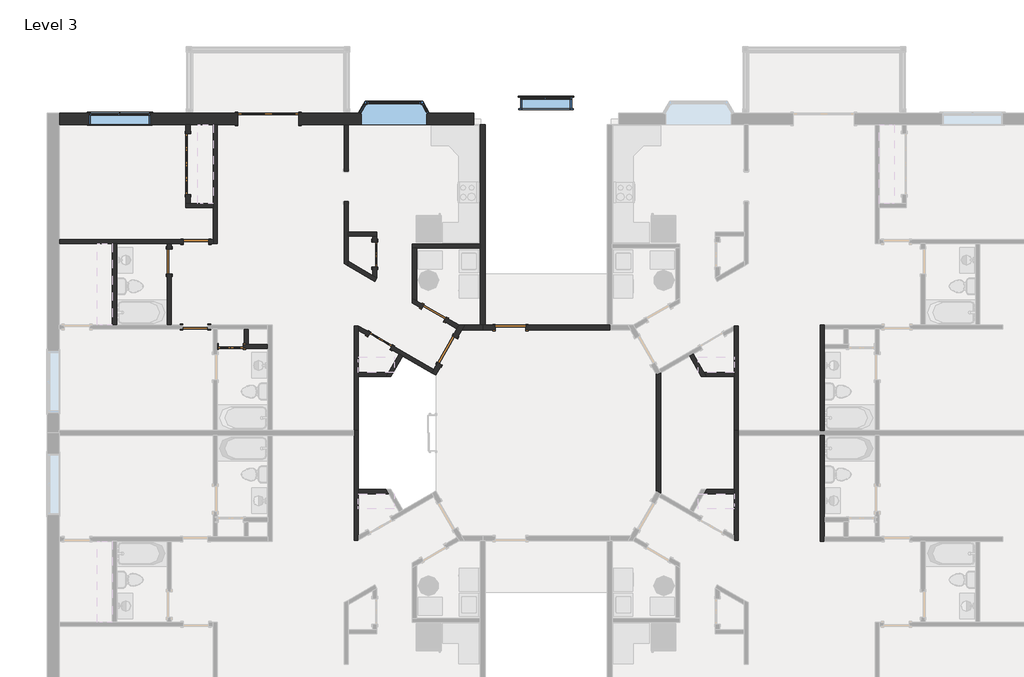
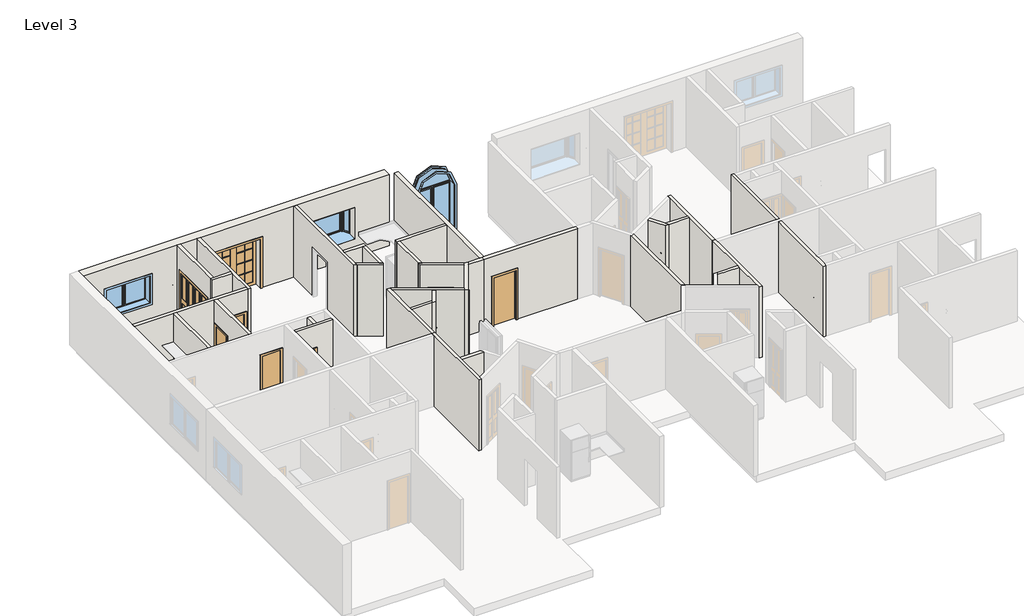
# One storey, part 3 of 5: 34 walls, 11 doors, 3 windows.
"""IFC4 building model written with IfcOpenShell, lengths in millimetres."""

from ifc_helpers import new_model, si_unit, frame, origin, place, context, project, spatial, polyline, outline, extrude, faceted_brep, transform, mapped, element, save
from components import door_28b41c19, door_77c9d7c5, door_beec499a, door_8fade463, door_91cbdfe0, door_39079f6b, door_e1308624, door_51669b0d, window_e38a858d, window_7fb523db, window_801eb773

model = new_model("IFC4")

# Units and contexts
model_context = context("Model", 3, world=origin())
ifc_project = project(units=[si_unit("LENGTHUNIT", "METRE", prefix="MILLI")], contexts=[model_context])

# Site, building, storey
site = spatial("IfcSite", under=ifc_project)
building = spatial("IfcBuilding", under=site)
storey = spatial("IfcBuildingStorey", under=building, Name="Level 3", Elevation=6096.0)

# Doors
placement = place(None, origin())
door_shape = door_28b41c19(model_context)
element("IfcDoor", 1, ObjectType="Bifold-2 Panel : 30\" x 80\"", at=placement, inside=storey, context=model_context, shape_type="MappedRepresentation", body=[
    mapped(door_shape, transform((-5777.2375398, 7161.5213201, 6096.0), x_axis=(0.0, 1.0, 0.0), y_axis=(-1.0, 0.0, 0.0), z_axis=(0.0, 0.0, 1.0))),
])
element("IfcDoor", 2, ObjectType="Bifold-2 Panel : 30\" x 80\"", at=placement, inside=storey, context=model_context, shape_type="MappedRepresentation", body=[
    mapped(door_shape, transform((-5620.6593942, 4569.8411376, 6096.0), x_axis=(-0.8660254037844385, 0.5000000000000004, 0.0), y_axis=(-0.5000000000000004, -0.8660254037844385, 0.0), z_axis=(0.0, 0.0, 1.0))),
])
door_2_shape = door_77c9d7c5(model_context)
element("IfcDoor", 3, ObjectType="Bifold-2 Panel : 30\" x 80\"", at=placement, inside=storey, context=model_context, shape_type="MappedRepresentation", body=[
    mapped(door_2_shape, transform((-10106.3500398, 4399.2713201, 6096.0), x_axis=(-1.0, 0.0, 0.0), y_axis=(0.0, -1.0, 0.0), z_axis=(0.0, 0.0, 1.0))),
])
door_3_shape = door_beec499a(model_context)
element("IfcDoor", 4, ObjectType="Bifold-4 Panel : 72\" x 80\"", at=placement, inside=storey, context=model_context, shape_type="MappedRepresentation", body=[
    mapped(door_3_shape, transform((-11387.4625398, 9879.3213201, 6096.0), x_axis=(0.0, -1.0, 0.0), y_axis=(1.0, 0.0, 0.0), z_axis=(0.0, 0.0, 1.0))),
])
door_4_shape = door_8fade463(model_context)
element("IfcDoor", 5, ObjectType="Double-Glass 2 : 72\" x 84\"", at=placement, inside=storey, context=model_context, shape_type="MappedRepresentation", body=[
    mapped(door_4_shape, transform((-8972.8750398, 11238.2213201, 6096.0), x_axis=(-1.0, 0.0, 0.0), y_axis=(0.0, -1.0, 0.0), z_axis=(0.0, 0.0, 1.0))),
])
door_5_shape = door_91cbdfe0(model_context)
element("IfcDoor", 6, ObjectType="Single-Flush : 30\" x 80\"", at=placement, inside=storey, context=model_context, shape_type="MappedRepresentation", body=[
    mapped(door_5_shape, transform((-11169.9750398, 4983.4713201, 6096.0), x_axis=(1.0, 0.0, 0.0), y_axis=(0.0, 1.0, 0.0), z_axis=(0.0, 0.0, 1.0))),
])
door_6_shape = door_39079f6b(model_context)
element("IfcDoor", 7, ObjectType="Single-Flush : 30\" x 80\"", at=placement, inside=storey, context=model_context, shape_type="MappedRepresentation", body=[
    mapped(door_6_shape, transform((-11154.1000398, 7545.6963201, 6096.0), x_axis=(1.0, 0.0, 0.0), y_axis=(0.0, 1.0, 0.0), z_axis=(0.0, 0.0, 1.0))),
])
element("IfcDoor", 8, ObjectType="Single-Flush : 30\" x 80\"", at=placement, inside=storey, context=model_context, shape_type="MappedRepresentation", body=[
    mapped(door_6_shape, transform((-4004.5369788, 5400.5472723, 6096.0), x_axis=(0.8660254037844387, -0.4999999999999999, 0.0), y_axis=(0.4999999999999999, 0.8660254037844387, 0.0), z_axis=(0.0, 0.0, 1.0))),
])
element("IfcDoor", 9, ObjectType="Single-Flush : 30\" x 80\"", at=placement, inside=storey, context=model_context, shape_type="MappedRepresentation", body=[
    mapped(door_6_shape, transform((-11949.4375398, 6950.3838201, 6096.0), x_axis=(0.0, 1.0, 0.0), y_axis=(-1.0, 0.0, 0.0), z_axis=(0.0, 0.0, 1.0))),
])
door_7_shape = door_e1308624(model_context)
element("IfcDoor", 10, ObjectType="Single-Flush : 36\" x 80\"", at=placement, inside=storey, context=model_context, shape_type="MappedRepresentation", body=[
    mapped(door_7_shape, transform((-3603.7554054, 4278.6213201, 6096.0), x_axis=(-0.5000000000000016, -0.8660254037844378, 0.0), y_axis=(0.8660254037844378, -0.5000000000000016, 0.0), z_axis=(0.0, 0.0, 1.0))),
])
door_8_shape = door_51669b0d(model_context)
element("IfcDoor", 11, ObjectType="Single-Flush : 36\" x 84\"", at=placement, inside=storey, context=model_context, shape_type="MappedRepresentation", body=[
    mapped(door_8_shape, transform((-1698.9500398, 4964.4213201, 6096.0), x_axis=(-1.0, 0.0, 0.0), y_axis=(0.0, -1.0, 0.0), z_axis=(0.0, 0.0, 1.0))),
])

# Walls
element("IfcWall", 12, ObjectType="Exterior - Brick on Mtl. Stud", at=placement, inside=storey, context=model_context, shape_type="Brep", body=[
    faceted_brep([(-15259.3750398, 11062.0088201, 6096.0), (-11449.3750398, 11062.0088201, 6096.0), (-11325.5500398, 11062.0088201, 6096.0), (-10636.5750398, 11062.0088201, 6096.0), (-10512.7500398, 11062.0088201, 6096.0), (-9887.2750398, 11062.0088201, 6096.0), (-9887.2750398, 11062.0088201, 8229.6), (-8058.4750398, 11062.0088201, 8229.6), (-8058.4750398, 11062.0088201, 6096.0), (-6702.7500398, 11062.0088201, 6096.0), (-6578.9250398, 11062.0088201, 6096.0), (-2813.3750398, 11062.0088201, 6096.0), (-2813.3750398, 11062.0088201, 9144.0), (-6578.9250398, 11062.0088201, 9144.0), (-6702.7500398, 11062.0088201, 9144.0), (-10512.7500398, 11062.0088201, 9144.0), (-10636.5750398, 11062.0088201, 9144.0), (-11325.5500398, 11062.0088201, 9144.0), (-11449.3750398, 11062.0088201, 9144.0), (-15259.3750398, 11062.0088201, 9144.0), (-6192.5376998, 11062.0088201, 8229.6), (-4218.9373798, 11062.0088201, 8229.6), (-4218.9373798, 11062.0088201, 6858.0), (-6192.5376998, 11062.0088201, 6858.0), (-14350.5312898, 11062.0088201, 8229.6), (-12521.7312898, 11062.0088201, 8229.6), (-12521.7312898, 11062.0088201, 7010.4), (-14350.5312898, 11062.0088201, 7010.4), (-9887.2750398, 11414.4338201, 8229.6), (-9887.2750398, 11414.4338201, 6096.0), (-15259.3750398, 11414.4338201, 6096.0), (-15259.3750398, 11414.4338201, 9144.0), (-2813.3750398, 11414.4338201, 9144.0), (-2813.3750398, 11414.4338201, 6096.0), (-8058.4750398, 11414.4338201, 6096.0), (-8058.4750398, 11414.4338201, 8229.6), (-4151.6375398, 11414.4338201, 8229.6), (-6259.7532738, 11414.4338201, 8229.6), (-6259.7532738, 11414.4338201, 6858.0), (-4151.6375398, 11414.4338201, 6858.0), (-14350.5312898, 11414.4338201, 8229.6), (-14350.5312898, 11414.4338201, 7010.4), (-12521.7312898, 11414.4338201, 7010.4), (-12521.7312898, 11414.4338201, 8229.6), (-2813.3750398, 11238.2213201, 6096.0), (-4218.9373798, 11375.4830814, 8229.6), (-6192.5376998, 11375.5317324, 8229.6), (-4218.9373798, 11375.4830814, 6858.0), (-6192.5376998, 11375.5317324, 6858.0)], [[[0, 1, 2, 3, 4, 5, 6, 7, 8, 9, 10, 11, 12, 13, 14, 15, 16, 17, 18, 19], [20, 21, 22, 23], [24, 25, 26, 27]], [[28, 29, 30, 31, 32, 33, 34, 35], [36, 37, 38, 39], [40, 41, 42, 43]], [[30, 29, 5, 4, 3, 2, 1, 0]], [[34, 33, 44, 11, 10, 9, 8]], [[19, 18, 17, 16, 15, 14, 13, 12, 32, 31]], [[0, 19, 31, 30]], [[12, 11, 44, 33, 32]], [[6, 5, 29, 28]], [[7, 6, 28, 35]], [[8, 7, 35, 34]], [[45, 21, 20, 46, 37, 36]], [[47, 39, 38, 48, 23, 22]], [[45, 47, 22, 21]], [[20, 23, 48, 46]], [[46, 48, 38, 37]], [[36, 39, 47, 45]], [[41, 40, 24, 27]], [[42, 41, 27, 26]], [[43, 42, 26, 25]], [[40, 43, 25, 24]]]),
])
element("IfcWall", 13, ObjectType="Generic - 6\" Masonry", at=placement, inside=storey, context=model_context, shape_type="Brep", body=[
    faceted_brep([(-3166.564131, 4892.9838201, 6096.0), (-2538.7375398, 4892.9838201, 6096.0), (-2538.7375398, 4892.9838201, 9144.0), (-3166.564131, 4892.9838201, 9144.0), (-3084.0752113, 5035.8588201, 6096.0), (-3084.0752113, 5035.8588201, 9144.0), (-2616.5250398, 5035.8588201, 9144.0), (-2538.7375398, 5035.8588201, 9144.0), (-2538.7375398, 5035.8588201, 6096.0), (-2616.5250398, 5035.8588201, 6096.0)], [[[0, 1, 2, 3]], [[4, 5, 6, 7, 8, 9]], [[1, 0, 4, 9, 8]], [[2, 1, 8, 7]], [[3, 2, 7, 6, 5]], [[0, 3, 5, 4]]]),
])
element("IfcWall", 14, ObjectType="Generic - 6\" Masonry", at=placement, inside=storey, context=model_context, shape_type="Brep", body=[
    faceted_brep([(-3950.9690828, 3534.3545898, 6096.0), (-3770.4887156, 3846.9557555, 6096.0), (-3770.4887156, 3846.9557555, 8128.0), (-3313.2887156, 4638.8493847, 8128.0), (-3313.2887156, 4638.8493847, 6096.0), (-3166.564131, 4892.9838201, 6096.0), (-3084.0752113, 5035.8588201, 6096.0), (-3084.0752113, 5035.8588201, 9144.0), (-3166.564131, 4892.9838201, 9144.0), (-3950.9690828, 3534.3545898, 9144.0), (-3894.2220952, 3918.3932555, 8128.0), (-3894.2220952, 3918.3932555, 6096.0), (-4012.7899624, 3713.0276854, 6096.0), (-4074.7024624, 3605.7920898, 6096.0), (-4074.7024624, 3605.7920898, 9144.0), (-4012.7899624, 3713.0276854, 9144.0), (-3310.9655507, 4928.6232245, 9144.0), (-3249.0530507, 5035.8588201, 9144.0), (-3249.0530507, 5035.8588201, 6096.0), (-3310.9655507, 4928.6232245, 6096.0), (-3437.0220952, 4710.2868847, 6096.0), (-3437.0220952, 4710.2868847, 8128.0)], [[[0, 1, 2, 3, 4, 5, 6, 7, 8, 9]], [[10, 11, 12, 13, 14, 15, 16, 17, 18, 19, 20, 21]], [[13, 12, 11, 1, 0]], [[20, 19, 18, 6, 5, 4]], [[9, 8, 7, 17, 16, 15, 14]], [[0, 9, 14, 13]], [[7, 6, 18, 17]], [[2, 1, 11, 10]], [[3, 2, 10, 21]], [[4, 3, 21, 20]]]),
])
element("IfcWall", 15, ObjectType="Generic - 6\" Masonry", at=placement, inside=storey, context=model_context, shape_type="Brep", body=[
    faceted_brep([(-2538.7375398, 4892.9838201, 6096.0), (-2156.1500398, 4892.9838201, 6096.0), (-2156.1500398, 4892.9838201, 8229.6), (-1241.7500398, 4892.9838201, 8229.6), (-1241.7500398, 4892.9838201, 6096.0), (1274.4374602, 4892.9838201, 6096.0), (1274.4374602, 4892.9838201, 9144.0), (-2538.7375398, 4892.9838201, 9144.0), (-2156.1500398, 5035.8588201, 8229.6), (-2156.1500398, 5035.8588201, 6096.0), (-2460.9500398, 5035.8588201, 6096.0), (-2538.7375398, 5035.8588201, 6096.0), (-2538.7375398, 5035.8588201, 9144.0), (-2460.9500398, 5035.8588201, 9144.0), (1196.6499602, 5035.8588201, 9144.0), (1274.4374602, 5035.8588201, 9144.0), (1274.4374602, 5035.8588201, 6096.0), (1196.6499602, 5035.8588201, 6096.0), (-1241.7500398, 5035.8588201, 6096.0), (-1241.7500398, 5035.8588201, 8229.6)], [[[0, 1, 2, 3, 4, 5, 6, 7]], [[8, 9, 10, 11, 12, 13, 14, 15, 16, 17, 18, 19]], [[11, 10, 9, 1, 0]], [[18, 17, 16, 5, 4]], [[6, 5, 16, 15]], [[7, 6, 15, 14, 13, 12]], [[0, 7, 12, 11]], [[2, 1, 9, 8]], [[3, 2, 8, 19]], [[4, 3, 19, 18]]]),
])
element("IfcWall", 16, ObjectType="Generic - 6\" Masonry", at=placement, inside=storey, context=model_context, shape_type="SweptSolid", body=[
    extrude(outline(polyline([(2810.4023827, 3605.7920898), (2810.4023827, -14.2494496), (2686.6690032, 57.1880504), (2667.5273827, 24.0337913), (2667.5273827, 3567.5088489), (2686.6690032, 3534.3545898), (2810.4023827, 3605.7920898)])), frame((0.0, 0.0, 6096.0), z_axis=(0.0, 0.0, 1.0), x_axis=(1.0, 0.0, 0.0)), (0.0, 0.0, 1.0), 3048.0),
])
element("IfcWall", 17, ObjectType="Interior - 4 7/8\" Partition (1-hr)", at=placement, inside=storey, context=model_context, shape_type="Brep", body=[
    faceted_brep([(-6277.3000398, -1428.900548, 6096.0), (-6277.3000398, -1285.9197539, 6096.0), (-6277.3000398, -28.7548222, 6096.0), (-6277.3000398, 95.0701778, 6096.0), (-6277.3000398, 1873.5588201, 6096.0), (-6277.3000398, 1873.5588201, 9144.0), (-6277.3000398, 95.0701778, 9144.0), (-6277.3000398, -28.7548222, 9144.0), (-6277.3000398, -1285.9197539, 9144.0), (-6277.3000398, -1428.900548, 9144.0), (-6401.1250398, -1428.900548, 6096.0), (-6401.1250398, -1428.900548, 9144.0), (-6401.1250398, 1717.9838201, 9144.0), (-6401.1250398, 1873.5588201, 9144.0), (-6401.1250398, 1873.5588201, 6096.0), (-6401.1250398, 1717.9838201, 6096.0)], [[[0, 1, 2, 3, 4, 5, 6, 7, 8, 9]], [[10, 11, 12, 13, 14, 15]], [[4, 3, 2, 1, 0, 10, 15, 14]], [[9, 8, 7, 6, 5, 13, 12, 11]], [[0, 9, 11, 10]], [[5, 4, 14, 13]]]),
])
element("IfcWall", 18, ObjectType="Interior - 4 7/8\" Partition (1-hr)", at=placement, inside=storey, context=model_context, shape_type="SweptSolid", body=[
    extrude(outline(polyline([(-6277.3000398, 95.0701778), (-5439.310023, 95.0701778), (-5367.8196259, -28.7548222), (-6277.3000398, -28.7548222), (-6277.3000398, 95.0701778)])), frame((0.0, 0.0, 6096.0), z_axis=(0.0, 0.0, 1.0), x_axis=(1.0, 0.0, 0.0)), (0.0, 0.0, 1.0), 3048.0),
])
element("IfcWall", 19, ObjectType="Interior - 4 7/8\" Partition (1-hr)", at=placement, inside=storey, context=model_context, shape_type="Brep", body=[
    faceted_brep([(-6702.7500398, 11062.0088201, 6096.0), (-6702.7500398, 9663.4213201, 6096.0), (-6702.7500398, 9663.4213201, 8128.0), (-6702.7500398, 8749.0213201, 8128.0), (-6702.7500398, 8749.0213201, 6096.0), (-6702.7500398, 6886.8709123, 6096.0), (-6702.7500398, 6886.8709123, 9144.0), (-6702.7500398, 11062.0088201, 9144.0), (-6578.9250398, 9663.4213201, 8128.0), (-6578.9250398, 9663.4213201, 6096.0), (-6578.9250398, 11062.0088201, 6096.0), (-6578.9250398, 11062.0088201, 9144.0), (-6578.9250398, 7836.2088201, 9144.0), (-6578.9250398, 7712.3838201, 9144.0), (-6578.9250398, 6958.3613094, 9144.0), (-6578.9250398, 6815.3805152, 9144.0), (-6578.9250398, 6815.3805152, 6096.0), (-6578.9250398, 6958.3613094, 6096.0), (-6578.9250398, 7712.3838201, 6096.0), (-6578.9250398, 7836.2088201, 6096.0), (-6578.9250398, 8749.0213201, 6096.0), (-6578.9250398, 8749.0213201, 8128.0)], [[[0, 1, 2, 3, 4, 5, 6, 7]], [[8, 9, 10, 11, 12, 13, 14, 15, 16, 17, 18, 19, 20, 21]], [[10, 9, 1, 0]], [[20, 19, 18, 17, 16, 5, 4]], [[7, 6, 15, 14, 13, 12, 11]], [[6, 5, 16, 15]], [[0, 7, 11, 10]], [[4, 3, 21, 20]], [[2, 1, 9, 8]], [[3, 2, 8, 21]]]),
])
element("IfcWall", 20, ObjectType="Interior - 4 7/8\" Partition (1-hr)", at=placement, inside=storey, context=model_context, shape_type="Brep", body=[
    faceted_brep([(-10636.5750398, 11062.0088201, 6096.0), (-10636.5750398, 8696.6338201, 6096.0), (-10636.5750398, 8572.8088201, 6096.0), (-10636.5750398, 7607.6088201, 6096.0), (-10636.5750398, 7483.7838201, 6096.0), (-10636.5750398, 7483.7838201, 9144.0), (-10636.5750398, 7607.6088201, 9144.0), (-10636.5750398, 8572.8088201, 9144.0), (-10636.5750398, 8696.6338201, 9144.0), (-10636.5750398, 11062.0088201, 9144.0), (-10512.7500398, 11062.0088201, 6096.0), (-10512.7500398, 11062.0088201, 9144.0), (-10512.7500398, 7483.7838201, 9144.0), (-10512.7500398, 7483.7838201, 6096.0)], [[[0, 1, 2, 3, 4, 5, 6, 7, 8, 9]], [[10, 11, 12, 13]], [[4, 3, 2, 1, 0, 10, 13]], [[9, 8, 7, 6, 5, 12, 11]], [[5, 4, 13, 12]], [[0, 9, 11, 10]]]),
])
element("IfcWall", 21, ObjectType="Interior - 4 7/8\" Partition (1-hr)", at=placement, inside=storey, context=model_context, shape_type="Brep", body=[
    faceted_brep([(-10636.5750398, 7607.6088201, 6096.0), (-10773.1000398, 7607.6088201, 6096.0), (-10773.1000398, 7607.6088201, 8128.0), (-11535.1000398, 7607.6088201, 8128.0), (-11535.1000398, 7607.6088201, 6096.0), (-15259.3750398, 7607.6088201, 6096.0), (-15259.3750398, 7607.6088201, 9144.0), (-10636.5750398, 7607.6088201, 9144.0), (-10773.1000398, 7483.7838201, 8128.0), (-10773.1000398, 7483.7838201, 6096.0), (-10636.5750398, 7483.7838201, 6096.0), (-10636.5750398, 7483.7838201, 9144.0), (-11887.5250398, 7483.7838201, 9144.0), (-12011.3500398, 7483.7838201, 9144.0), (-13535.3500398, 7483.7838201, 9144.0), (-13659.1750398, 7483.7838201, 9144.0), (-15259.3750398, 7483.7838201, 9144.0), (-15259.3750398, 7483.7838201, 6096.0), (-13659.1750398, 7483.7838201, 6096.0), (-13535.3500398, 7483.7838201, 6096.0), (-12011.3500398, 7483.7838201, 6096.0), (-11887.5250398, 7483.7838201, 6096.0), (-11535.1000398, 7483.7838201, 6096.0), (-11535.1000398, 7483.7838201, 8128.0)], [[[0, 1, 2, 3, 4, 5, 6, 7]], [[8, 9, 10, 11, 12, 13, 14, 15, 16, 17, 18, 19, 20, 21, 22, 23]], [[10, 9, 1, 0]], [[22, 21, 20, 19, 18, 17, 5, 4]], [[7, 6, 16, 15, 14, 13, 12, 11]], [[6, 5, 17, 16]], [[0, 7, 11, 10]], [[2, 1, 9, 8]], [[3, 2, 8, 23]], [[4, 3, 23, 22]]]),
])
element("IfcWall", 22, ObjectType="Interior - 4 7/8\" Partition (1-hr)", at=placement, inside=storey, context=model_context, shape_type="SweptSolid", body=[
    extrude(outline(polyline([(7483.7838201, 6096.0), (7331.3838201, 6096.0), (7331.3838201, 8128.0), (6569.3838201, 8128.0), (6569.3838201, 6096.0), (5045.3838201, 6096.0), (5045.3838201, 9144.0), (7483.7838201, 9144.0), (7483.7838201, 6096.0)])), frame((-12011.3500398, 0.0, 0.0), z_axis=(1.0, 0.0, 0.0), x_axis=(0.0, 1.0, 0.0)), (0.0, 0.0, 1.0), 123.825),
])
element("IfcWall", 23, ObjectType="Interior - 4 7/8\" Partition (1-hr)", at=placement, inside=storey, context=model_context, shape_type="Brep", body=[
    faceted_brep([(-10636.5750398, 8696.6338201, 6096.0), (-11325.5500398, 8696.6338201, 6096.0), (-11449.3750398, 8696.6338201, 6096.0), (-11449.3750398, 8696.6338201, 9144.0), (-11325.5500398, 8696.6338201, 9144.0), (-10636.5750398, 8696.6338201, 9144.0), (-10636.5750398, 8572.8088201, 6096.0), (-10636.5750398, 8572.8088201, 9144.0), (-11449.3750398, 8572.8088201, 9144.0), (-11449.3750398, 8572.8088201, 6096.0)], [[[0, 1, 2, 3, 4, 5]], [[6, 7, 8, 9]], [[2, 1, 0, 6, 9]], [[5, 4, 3, 8, 7]], [[3, 2, 9, 8]], [[0, 5, 7, 6]]]),
])
element("IfcWall", 24, ObjectType="Interior - 4 7/8\" Partition (1-hr)", at=placement, inside=storey, context=model_context, shape_type="SweptSolid", body=[
    extrude(outline(polyline([(8964.9213201, 8128.0), (8964.9213201, 6096.0), (8696.6338201, 6096.0), (8696.6338201, 9144.0), (11062.0088201, 9144.0), (11062.0088201, 6096.0), (10793.7213201, 6096.0), (10793.7213201, 8128.0), (8964.9213201, 8128.0)])), frame((-11449.3750398, 0.0, 0.0), z_axis=(1.0, 0.0, 0.0), x_axis=(0.0, 1.0, 0.0)), (0.0, 0.0, 1.0), 123.825),
])
element("IfcWall", 25, ObjectType="Interior - 4 7/8\" Partition (1-hr)", at=placement, inside=storey, context=model_context, shape_type="SweptSolid", body=[
    extrude(outline(polyline([(-13659.1750398, 5045.3838201), (-13659.1750398, 7483.7838201), (-13535.3500398, 7483.7838201), (-13535.3500398, 5045.3838201), (-13659.1750398, 5045.3838201)])), frame((0.0, 0.0, 6096.0), z_axis=(0.0, 0.0, 1.0), x_axis=(1.0, 0.0, 0.0)), (0.0, 0.0, 1.0), 3048.0),
])
element("IfcWall", 26, ObjectType="Interior - 4 7/8\" Partition (1-hr)", at=placement, inside=storey, context=model_context, shape_type="Brep", body=[
    faceted_brep([(-6578.9250398, 7712.3838201, 6096.0), (-5839.1500398, 7712.3838201, 6096.0), (-5715.3250398, 7712.3838201, 6096.0), (-5715.3250398, 7712.3838201, 9144.0), (-5839.1500398, 7712.3838201, 9144.0), (-6578.9250398, 7712.3838201, 9144.0), (-6578.9250398, 7836.2088201, 6096.0), (-6578.9250398, 7836.2088201, 9144.0), (-5715.3250398, 7836.2088201, 9144.0), (-5715.3250398, 7836.2088201, 6096.0)], [[[0, 1, 2, 3, 4, 5]], [[6, 7, 8, 9]], [[2, 1, 0, 6, 9]], [[5, 4, 3, 8, 7]], [[3, 2, 9, 8]], [[0, 5, 7, 6]]]),
])
element("IfcWall", 27, ObjectType="Interior - 4 7/8\" Partition (1-hr)", at=placement, inside=storey, context=model_context, shape_type="Brep", body=[
    faceted_brep([(-5839.1500398, 7712.3838201, 6096.0), (-5839.1500398, 7542.5213201, 6096.0), (-5839.1500398, 7542.5213201, 8128.0), (-5839.1500398, 6780.5213201, 8128.0), (-5839.1500398, 6780.5213201, 6096.0), (-5839.1500398, 6531.252014, 6096.0), (-5839.1500398, 6531.252014, 9144.0), (-5839.1500398, 7712.3838201, 9144.0), (-5715.3250398, 7542.5213201, 8128.0), (-5715.3250398, 7542.5213201, 6096.0), (-5715.3250398, 7712.3838201, 6096.0), (-5715.3250398, 7712.3838201, 9144.0), (-5715.3250398, 6459.7616169, 9144.0), (-5715.3250398, 6459.7616169, 6096.0), (-5715.3250398, 6780.5213201, 6096.0), (-5715.3250398, 6780.5213201, 8128.0)], [[[0, 1, 2, 3, 4, 5, 6, 7]], [[8, 9, 10, 11, 12, 13, 14, 15]], [[10, 9, 1, 0]], [[14, 13, 5, 4]], [[7, 6, 12, 11]], [[6, 5, 13, 12]], [[0, 7, 11, 10]], [[2, 1, 9, 8]], [[3, 2, 8, 15]], [[4, 3, 15, 14]]]),
])
element("IfcWall", 28, ObjectType="Interior - 4 7/8\" Partition (1-hr)", at=placement, inside=storey, context=model_context, shape_type="Brep", body=[
    faceted_brep([(-3249.0530507, 5035.8588201, 6096.0), (-3643.62505, 5263.6650701, 6096.0), (-3643.62505, 5263.6650701, 8128.0), (-4303.5364076, 5644.6650701, 8128.0), (-4303.5364076, 5644.6650701, 6096.0), (-4524.7000398, 5772.3539527, 6096.0), (-4648.5250398, 5843.8443497, 6096.0), (-4648.5250398, 5843.8443497, 9144.0), (-4524.7000398, 5772.3539527, 9144.0), (-3249.0530507, 5035.8588201, 9144.0), (-3705.53755, 5156.4294745, 8128.0), (-3705.53755, 5156.4294745, 6096.0), (-3310.9655507, 4928.6232245, 6096.0), (-3310.9655507, 4928.6232245, 9144.0), (-4648.5250398, 5700.8635556, 9144.0), (-4648.5250398, 5700.8635556, 6096.0), (-4365.4489076, 5537.4294745, 6096.0), (-4365.4489076, 5537.4294745, 8128.0)], [[[0, 1, 2, 3, 4, 5, 6, 7, 8, 9]], [[10, 11, 12, 13, 14, 15, 16, 17]], [[12, 11, 1, 0]], [[16, 15, 6, 5, 4]], [[9, 8, 7, 14, 13]], [[7, 6, 15, 14]], [[0, 9, 13, 12]], [[2, 1, 11, 10]], [[3, 2, 10, 17]], [[4, 3, 17, 16]]]),
])
element("IfcWall", 29, ObjectType="Interior - 4 7/8\" Partition (1-hr)", at=placement, inside=storey, context=model_context, shape_type="Brep", body=[
    faceted_brep([(-6401.1250398, 5020.4431882, 6096.0), (-6401.1250398, 1873.5588201, 6096.0), (-6401.1250398, 1873.5588201, 9144.0), (-6401.1250398, 5020.4431882, 9144.0), (-6277.3000398, 5020.4431882, 6096.0), (-6277.3000398, 5020.4431882, 9144.0), (-6277.3000398, 4877.462394, 9144.0), (-6277.3000398, 3620.2974624, 9144.0), (-6277.3000398, 3496.4724624, 9144.0), (-6277.3000398, 1873.5588201, 9144.0), (-6277.3000398, 1873.5588201, 6096.0), (-6277.3000398, 3496.4724624, 6096.0), (-6277.3000398, 3620.2974624, 6096.0), (-6277.3000398, 4877.462394, 6096.0)], [[[0, 1, 2, 3]], [[4, 5, 6, 7, 8, 9, 10, 11, 12, 13]], [[1, 0, 4, 13, 12, 11, 10]], [[3, 2, 9, 8, 7, 6, 5]], [[0, 3, 5, 4]], [[2, 1, 10, 9]]]),
])
element("IfcWall", 30, ObjectType="Interior - 4 7/8\" Partition (1-hr)", at=placement, inside=storey, context=model_context, shape_type="Brep", body=[
    faceted_brep([(-4648.5250398, 7356.7838201, 6096.0), (-4524.7000398, 7356.7838201, 6096.0), (-2616.5250398, 7356.7838201, 6096.0), (-2616.5250398, 7356.7838201, 9144.0), (-4524.7000398, 7356.7838201, 9144.0), (-4648.5250398, 7356.7838201, 9144.0), (-4648.5250398, 7480.6088201, 6096.0), (-4648.5250398, 7480.6088201, 9144.0), (-2616.5250398, 7480.6088201, 9144.0), (-2616.5250398, 7480.6088201, 6096.0)], [[[0, 1, 2, 3, 4, 5]], [[6, 7, 8, 9]], [[2, 1, 0, 6, 9]], [[5, 4, 3, 8, 7]], [[0, 5, 7, 6]], [[3, 2, 9, 8]]]),
])
element("IfcWall", 31, ObjectType="Interior - 4 7/8\" Partition (1-hr)", at=placement, inside=storey, context=model_context, shape_type="SweptSolid", body=[
    extrude(outline(polyline([(-4648.5250398, 5843.8443497), (-4648.5250398, 7356.7838201), (-4524.7000398, 7356.7838201), (-4524.7000398, 5772.3539527), (-4648.5250398, 5843.8443497)])), frame((0.0, 0.0, 6096.0), z_axis=(0.0, 0.0, 1.0), x_axis=(1.0, 0.0, 0.0)), (0.0, 0.0, 1.0), 3048.0),
])
element("IfcWall", 32, ObjectType="Interior - 4 7/8\" Partition (1-hr)", at=placement, inside=storey, context=model_context, shape_type="Brep", body=[
    faceted_brep([(-5715.3250398, 6459.7616169, 6096.0), (-5839.1500398, 6531.252014, 6096.0), (-6578.9250398, 6958.3613094, 6096.0), (-6578.9250398, 6958.3613094, 9144.0), (-5839.1500398, 6531.252014, 9144.0), (-5715.3250398, 6459.7616169, 9144.0), (-5777.2375398, 6352.5260213, 6096.0), (-5777.2375398, 6352.5260213, 9144.0), (-6578.9250398, 6815.3805152, 9144.0), (-6578.9250398, 6815.3805152, 6096.0)], [[[0, 1, 2, 3, 4, 5]], [[6, 7, 8, 9]], [[2, 1, 0, 6, 9]], [[5, 4, 3, 8, 7]], [[0, 5, 7, 6]], [[3, 2, 9, 8]]]),
])
element("IfcWall", 33, ObjectType="Interior - 4 7/8\" Partition (1-hr)", at=placement, inside=storey, context=model_context, shape_type="Brep", body=[
    faceted_brep([(-6277.3000398, 4877.462394, 6096.0), (-5981.571323, 4706.7233398, 6096.0), (-5981.571323, 4706.7233398, 8128.0), (-5321.6599653, 4325.7233398, 8128.0), (-5321.6599653, 4325.7233398, 6096.0), (-5050.8213456, 4169.3545898, 6096.0), (-4943.58575, 4107.4420898, 6096.0), (-4074.7024624, 3605.7920898, 6096.0), (-4074.7024624, 3605.7920898, 9144.0), (-4943.58575, 4107.4420898, 9144.0), (-5050.8213456, 4169.3545898, 9144.0), (-6277.3000398, 4877.462394, 9144.0), (-5919.658823, 4813.9589354, 8128.0), (-5919.658823, 4813.9589354, 6096.0), (-6277.3000398, 5020.4431882, 6096.0), (-6277.3000398, 5020.4431882, 9144.0), (-4012.7899624, 3713.0276854, 9144.0), (-4012.7899624, 3713.0276854, 6096.0), (-5259.7474653, 4432.9589354, 6096.0), (-5259.7474653, 4432.9589354, 8128.0)], [[[0, 1, 2, 3, 4, 5, 6, 7, 8, 9, 10, 11]], [[12, 13, 14, 15, 16, 17, 18, 19]], [[14, 13, 1, 0]], [[18, 17, 7, 6, 5, 4]], [[11, 10, 9, 8, 16, 15]], [[8, 7, 17, 16]], [[0, 11, 15, 14]], [[2, 1, 13, 12]], [[3, 2, 12, 19]], [[4, 3, 19, 18]]]),
])
element("IfcWall", 34, ObjectType="Interior - 4 7/8\" Partition (1-hr)", at=placement, inside=storey, context=model_context, shape_type="Brep", body=[
    faceted_brep([(-5050.8213456, 4169.3545898, 6096.0), (-5367.8196259, 3620.2974624, 6096.0), (-5439.310023, 3496.4724624, 6096.0), (-5439.310023, 3496.4724624, 9144.0), (-5367.8196259, 3620.2974624, 9144.0), (-5050.8213456, 4169.3545898, 9144.0), (-4943.58575, 4107.4420898, 6096.0), (-4943.58575, 4107.4420898, 9144.0), (-5296.3292288, 3496.4724624, 9144.0), (-5296.3292288, 3496.4724624, 6096.0)], [[[0, 1, 2, 3, 4, 5]], [[6, 7, 8, 9]], [[2, 1, 0, 6, 9]], [[5, 4, 3, 8, 7]], [[3, 2, 9, 8]], [[0, 5, 7, 6]]]),
])
element("IfcWall", 35, ObjectType="Interior - 4 7/8\" Partition (1-hr)", at=placement, inside=storey, context=model_context, shape_type="SweptSolid", body=[
    extrude(outline(polyline([(-6277.3000398, 3620.2974624), (-5367.8196259, 3620.2974624), (-5439.310023, 3496.4724624), (-6277.3000398, 3496.4724624), (-6277.3000398, 3620.2974624)])), frame((0.0, 0.0, 6096.0), z_axis=(0.0, 0.0, 1.0), x_axis=(1.0, 0.0, 0.0)), (0.0, 0.0, 1.0), 3048.0),
])
element("IfcWall", 36, ObjectType="Interior - 4 7/8\" Partition (1-hr)", at=placement, inside=storey, context=model_context, shape_type="Brep", body=[
    faceted_brep([(-10512.7500398, 4461.1838201, 9144.0), (-9699.9500398, 4461.1838201, 9144.0), (-9576.1250398, 4461.1838201, 9144.0), (-8988.7500398, 4461.1838201, 9144.0), (-8988.7500398, 4461.1838201, 6096.0), (-9576.1250398, 4461.1838201, 6096.0), (-9699.9500398, 4461.1838201, 6096.0), (-9725.3500398, 4461.1838201, 6096.0), (-9725.3500398, 4461.1838201, 8128.0), (-10487.3500398, 4461.1838201, 8128.0), (-10487.3500398, 4461.1838201, 6096.0), (-10512.7500398, 4461.1838201, 6096.0), (-8988.7500398, 4337.3588201, 9144.0), (-10512.7500398, 4337.3588201, 9144.0), (-10512.7500398, 4337.3588201, 6096.0), (-10487.3500398, 4337.3588201, 6096.0), (-10487.3500398, 4337.3588201, 8128.0), (-9725.3500398, 4337.3588201, 8128.0), (-9725.3500398, 4337.3588201, 6096.0), (-8988.7500398, 4337.3588201, 6096.0)], [[[0, 1, 2, 3, 4, 5, 6, 7, 8, 9, 10, 11]], [[12, 13, 14, 15, 16, 17, 18, 19]], [[4, 19, 18, 7, 6, 5]], [[14, 11, 10, 15]], [[3, 2, 1, 0, 13, 12]], [[9, 16, 15, 10]], [[16, 9, 8, 17]], [[17, 8, 7, 18]], [[4, 3, 12, 19]], [[0, 11, 14, 13]]]),
])
element("IfcWall", 37, ObjectType="Interior - 4 7/8\" Partition (1-hr)", at=placement, inside=storey, context=model_context, shape_type="SweptSolid", body=[
    extrude(outline(polyline([(-9576.1250398, 4921.5588201), (-9576.1250398, 4461.1838201), (-9699.9500398, 4461.1838201), (-9699.9500398, 4921.5588201), (-9576.1250398, 4921.5588201)])), frame((0.0, 0.0, 6096.0), z_axis=(0.0, 0.0, 1.0), x_axis=(1.0, 0.0, 0.0)), (0.0, 0.0, 1.0), 3048.0),
])
element("IfcWall", 38, ObjectType="Interior - 4 7/8\" Partition (1-hr)", at=placement, inside=storey, context=model_context, shape_type="Brep", body=[
    faceted_brep([(7724.4499602, -1453.8411799, 6096.0), (7724.4499602, -1330.0161799, 6096.0), (7724.4499602, -869.6411799, 6096.0), (7724.4499602, -745.8161799, 6096.0), (7724.4499602, 1717.9838201, 6096.0), (7724.4499602, 1717.9838201, 9144.0), (7724.4499602, -745.8161799, 9144.0), (7724.4499602, -869.6411799, 9144.0), (7724.4499602, -1330.0161799, 9144.0), (7724.4499602, -1453.8411799, 9144.0), (7600.6249602, -1453.8411799, 6096.0), (7600.6249602, -1453.8411799, 9144.0), (7600.6249602, 1717.9838201, 9144.0), (7600.6249602, 1717.9838201, 6096.0)], [[[0, 1, 2, 3, 4, 5, 6, 7, 8, 9]], [[10, 11, 12, 13]], [[4, 3, 2, 1, 0, 10, 13]], [[9, 8, 7, 6, 5, 12, 11]], [[0, 9, 11, 10]], [[5, 4, 13, 12]]]),
])
element("IfcWall", 39, ObjectType="Interior - 4 7/8\" Partition (1-hr)", at=placement, inside=storey, context=model_context, shape_type="Brep", body=[
    faceted_brep([(5136.8249602, -1428.900548, 6096.0), (5136.8249602, 1717.9838201, 6096.0), (5136.8249602, 1873.5588201, 6096.0), (5136.8249602, 1873.5588201, 9144.0), (5136.8249602, 1717.9838201, 9144.0), (5136.8249602, -1428.900548, 9144.0), (5012.9999602, -1428.900548, 6096.0), (5012.9999602, -1428.900548, 9144.0), (5012.9999602, -1285.9197539, 9144.0), (5012.9999602, -28.7548222, 9144.0), (5012.9999602, 95.0701778, 9144.0), (5012.9999602, 1873.5588201, 9144.0), (5012.9999602, 1873.5588201, 6096.0), (5012.9999602, 95.0701778, 6096.0), (5012.9999602, -28.7548222, 6096.0), (5012.9999602, -1285.9197539, 6096.0)], [[[0, 1, 2, 3, 4, 5]], [[6, 7, 8, 9, 10, 11, 12, 13, 14, 15]], [[2, 1, 0, 6, 15, 14, 13, 12]], [[5, 4, 3, 11, 10, 9, 8, 7]], [[0, 5, 7, 6]], [[3, 2, 12, 11]]]),
])
element("IfcWall", 40, ObjectType="Interior - 4 7/8\" Partition (1-hr)", at=placement, inside=storey, context=model_context, shape_type="SweptSolid", body=[
    extrude(outline(polyline([(5012.9999602, -28.7548222), (4103.5195463, -28.7548222), (4175.0099434, 95.0701778), (5012.9999602, 95.0701778), (5012.9999602, -28.7548222)])), frame((0.0, 0.0, 6096.0), z_axis=(0.0, 0.0, 1.0), x_axis=(1.0, 0.0, 0.0)), (0.0, 0.0, 1.0), 3048.0),
])
element("IfcWall", 41, ObjectType="Interior - 4 7/8\" Partition (1-hr)", at=placement, inside=storey, context=model_context, shape_type="Brep", body=[
    faceted_brep([(7600.6249602, 5045.3838201, 6096.0), (7600.6249602, 1873.5588201, 6096.0), (7600.6249602, 1873.5588201, 9144.0), (7600.6249602, 5045.3838201, 9144.0), (7724.4499602, 5045.3838201, 6096.0), (7724.4499602, 5045.3838201, 9144.0), (7724.4499602, 4921.5588201, 9144.0), (7724.4499602, 4461.1838201, 9144.0), (7724.4499602, 4337.3588201, 9144.0), (7724.4499602, 1873.5588201, 9144.0), (7724.4499602, 1873.5588201, 6096.0), (7724.4499602, 4337.3588201, 6096.0), (7724.4499602, 4461.1838201, 6096.0), (7724.4499602, 4921.5588201, 6096.0)], [[[0, 1, 2, 3]], [[4, 5, 6, 7, 8, 9, 10, 11, 12, 13]], [[1, 0, 4, 13, 12, 11, 10]], [[3, 2, 9, 8, 7, 6, 5]], [[0, 3, 5, 4]], [[2, 1, 10, 9]]]),
])
element("IfcWall", 42, ObjectType="Interior - 4 7/8\" Partition (1-hr)", at=placement, inside=storey, context=model_context, shape_type="Brep", body=[
    faceted_brep([(5012.9999602, 5020.4431882, 6096.0), (5012.9999602, 4877.462394, 6096.0), (5012.9999602, 3620.2974624, 6096.0), (5012.9999602, 3496.4724624, 6096.0), (5012.9999602, 1873.5588201, 6096.0), (5012.9999602, 1873.5588201, 9144.0), (5012.9999602, 3496.4724624, 9144.0), (5012.9999602, 3620.2974624, 9144.0), (5012.9999602, 4877.462394, 9144.0), (5012.9999602, 5020.4431882, 9144.0), (5136.8249602, 5020.4431882, 6096.0), (5136.8249602, 5020.4431882, 9144.0), (5136.8249602, 1873.5588201, 9144.0), (5136.8249602, 1873.5588201, 6096.0)], [[[0, 1, 2, 3, 4, 5, 6, 7, 8, 9]], [[10, 11, 12, 13]], [[4, 3, 2, 1, 0, 10, 13]], [[9, 8, 7, 6, 5, 12, 11]], [[0, 9, 11, 10]], [[5, 4, 13, 12]]]),
])
element("IfcWall", 43, ObjectType="Interior - 4 7/8\" Partition (1-hr)", at=placement, inside=storey, context=model_context, shape_type="Brep", body=[
    faceted_brep([(3679.2856704, 4107.4420898, 6096.0), (4032.0291492, 3496.4724624, 6096.0), (4032.0291492, 3496.4724624, 9144.0), (3679.2856704, 4107.4420898, 9144.0), (3786.521266, 4169.3545898, 6096.0), (3786.521266, 4169.3545898, 9144.0), (4103.5195463, 3620.2974624, 9144.0), (4175.0099434, 3496.4724624, 9144.0), (4175.0099434, 3496.4724624, 6096.0), (4103.5195463, 3620.2974624, 6096.0)], [[[0, 1, 2, 3]], [[4, 5, 6, 7, 8, 9]], [[1, 0, 4, 9, 8]], [[3, 2, 7, 6, 5]], [[2, 1, 8, 7]], [[0, 3, 5, 4]]]),
])
element("IfcWall", 44, ObjectType="Interior - 4 7/8\" Partition (1-hr)", at=placement, inside=storey, context=model_context, shape_type="SweptSolid", body=[
    extrude(outline(polyline([(5012.9999602, 3496.4724624), (4175.0099434, 3496.4724624), (4103.5195463, 3620.2974624), (5012.9999602, 3620.2974624), (5012.9999602, 3496.4724624)])), frame((0.0, 0.0, 6096.0), z_axis=(0.0, 0.0, 1.0), x_axis=(1.0, 0.0, 0.0)), (0.0, 0.0, 1.0), 3048.0),
])
element("IfcWall", 45, ObjectType="Interior - 6 1/8\" Partition (2-hr)", at=placement, inside=storey, context=model_context, shape_type="Brep", body=[
    faceted_brep([(-2460.9500398, 5035.8588201, 6096.0), (-2460.9500398, 11062.0088201, 6096.0), (-2460.9500398, 11062.0088201, 9144.0), (-2460.9500398, 5035.8588201, 9144.0), (-2616.5250398, 5035.8588201, 6096.0), (-2616.5250398, 5035.8588201, 9144.0), (-2616.5250398, 7356.7838201, 9144.0), (-2616.5250398, 7480.6088201, 9144.0), (-2616.5250398, 11062.0088201, 9144.0), (-2616.5250398, 11062.0088201, 6096.0), (-2616.5250398, 7480.6088201, 6096.0), (-2616.5250398, 7356.7838201, 6096.0), (-2538.7375398, 5035.8588201, 6096.0), (-2538.7375398, 5035.8588201, 9144.0)], [[[0, 1, 2, 3]], [[4, 5, 6, 7, 8, 9, 10, 11]], [[1, 0, 12, 4, 11, 10, 9]], [[3, 2, 8, 7, 6, 5, 13]], [[2, 1, 9, 8]], [[0, 3, 13, 5, 4, 12]]]),
])

# Windows
window_shape = window_e38a858d(model_context)
element("IfcWindow", 46, ObjectType="Combination Rtp with Trim : 60\" x 84\"", at=placement, inside=storey, context=model_context, shape_type="MappedRepresentation", body=[
    mapped(window_shape, transform((-624.1478817, 11715.9922491, 4963.8857143), x_axis=(-1.0, 0.0, 0.0), y_axis=(0.0, -1.0, 0.0), z_axis=(0.0, 0.0, 1.0))),
])
window_2_shape = window_7fb523db(model_context)
element("IfcWindow", 47, ObjectType="Bay-30 Deg : 84\" x 54\"", at=placement, inside=storey, context=model_context, shape_type="MappedRepresentation", body=[
    mapped(window_2_shape, transform((-5205.7861908, 11238.2213201, 6096.0), x_axis=(-1.0, 0.0, 0.0), y_axis=(0.0, -1.0, 0.0), z_axis=(0.0, 0.0, 1.0))),
])
window_3_shape = window_801eb773(model_context)
element("IfcWindow", 48, ObjectType="Casement Dbl with Trim : 72\" x 48\"", at=placement, inside=storey, context=model_context, shape_type="MappedRepresentation", body=[
    mapped(window_3_shape, transform((-13436.1312898, 11219.1713201, 5791.2), x_axis=(-1.0, 0.0, 0.0), y_axis=(0.0, -1.0, 0.0), z_axis=(0.0, 0.0, 1.0))),
])

save(model, "model.ifc")
